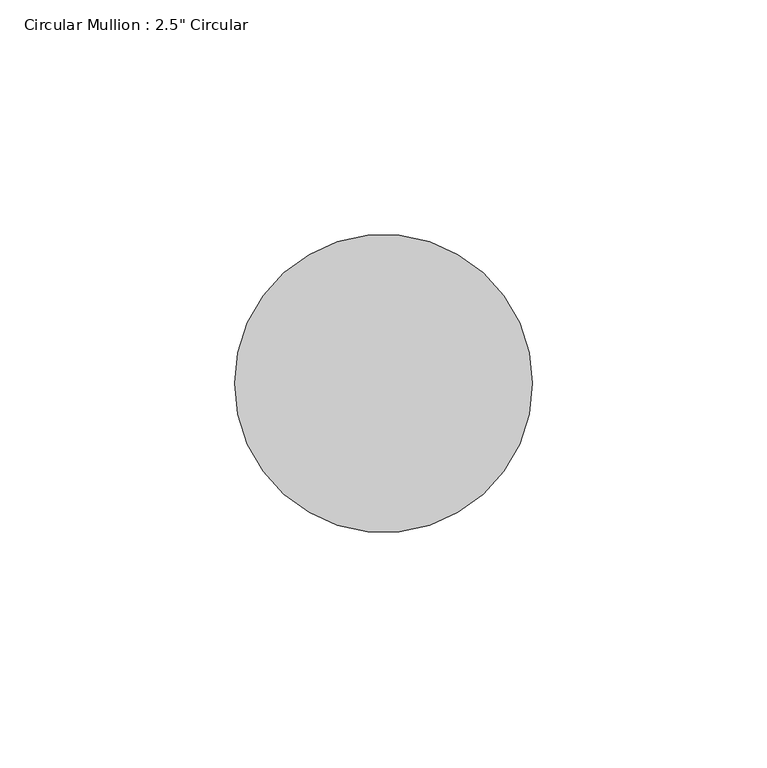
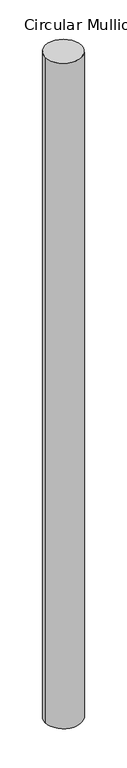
"""IFC4 building model written with IfcOpenShell, lengths in millimetres: member geometry."""

from ifc_helpers import new_model, si_unit, point, frame, frame_2d, origin, place, context, project, spatial, circle_curve, trimmed, segment, composite_curve, outline, extrude, source, transform, mapped, element, save


def member_550a394c(model_context):
    return source(origin(), model_context, "Body", "SweptSolid", [
        extrude(outline(composite_curve([segment(trimmed(circle_curve(frame_2d((-31.75, 0.0)), 31.75), [point((0.0, 0.0))], [point((-63.5, 0.0))], False, "CARTESIAN"), True, "CONTINUOUS"), segment(trimmed(circle_curve(frame_2d((-31.75, 0.0)), 31.75), [point((-63.5, 0.0))], [point((0.0, 0.0))], False, "CARTESIAN"), True, "CONTINUOUS")], self_intersect=False)), frame((0.0, 0.0, -1227.7742331), z_axis=(0.0, 0.0, 1.0), x_axis=(1.0, 0.0, 0.0)), (0.0, 0.0, 1.0), 1227.7742331),
    ])


if __name__ == "__main__":
    model = new_model("IFC4")
    model_context = context("Model", 3, world=origin())
    ifc_project = project(units=[si_unit("LENGTHUNIT", "METRE", prefix="MILLI")], contexts=[model_context])
    site = spatial("IfcSite", under=ifc_project)
    building = spatial("IfcBuilding", under=site)
    placement = place(None, origin())
    member_shape = member_550a394c(model_context)
    element("IfcMember", 1, ObjectType="Circular Mullion : 2.5\" Circular", at=placement, inside=building, context=model_context, shape_type="MappedRepresentation", body=[
        mapped(member_shape, transform((0.0, 0.0, 0.0), x_axis=(1.0, 0.0, 0.0), y_axis=(0.0, 1.0, 0.0), z_axis=(0.0, 0.0, 1.0))),
    ])
    save(model, "model.ifc")
